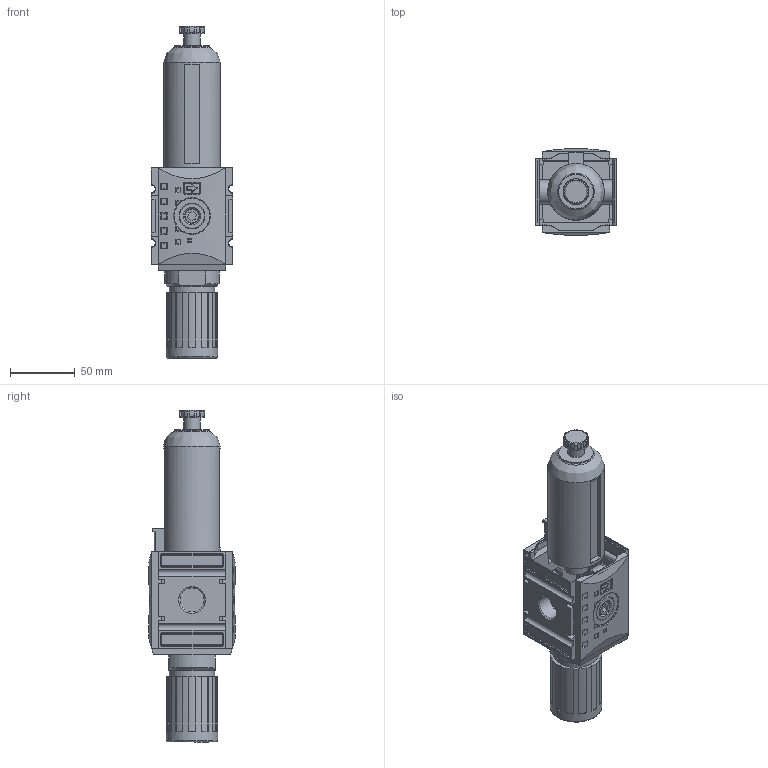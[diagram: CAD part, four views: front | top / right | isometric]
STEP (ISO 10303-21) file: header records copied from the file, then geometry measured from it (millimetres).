
FILE_DESCRIPTION((''),'2;1');
FILE_NAME('K:\ZEICHNG\Kunden Modelle\FUTURA Steps\BG2\KFRG-212.stp','2010-02-22T14:23:19',('DDruske'),(''),'Autodesk Inventor 2009','Autodesk Inventor 2009','');
FILE_SCHEMA(('AUTOMOTIVE_DESIGN { 1 0 10303 214 1 1 1 1 }'));
Length unit declared in the file: millimetre
Products named in the file (1): Bauteil8
Bounding box: 63 x 67.13 x 257.2 mm (x, y, z)
Volume: 481886.5 mm3; surface area: 76267.2 mm2
Topology: 3 solids, 3 shells, 1006 faces, 2698 edges, 1662 vertices
Faces by surface type: plane 399, cylinder 337, bspline 155, torus 80, sphere 20, cone 15
Full cylindrical faces by diameter (mm): 11.245 x1, 11.445 x1, 13 x1, 18.6 x1, 18.631 x1, 19 x2, 20 x1, 27 x1, 28 x2, 35 x1, 40 x1, 43.8 x1
Entity records: 39560 total; most frequent: CARTESIAN_POINT 14492, ORIENTED_EDGE 5220, DIRECTION 4696, EDGE_CURVE 2610, VERTEX_POINT 1650, AXIS2_PLACEMENT_3D 1590, VECTOR 1516, LINE 1516
